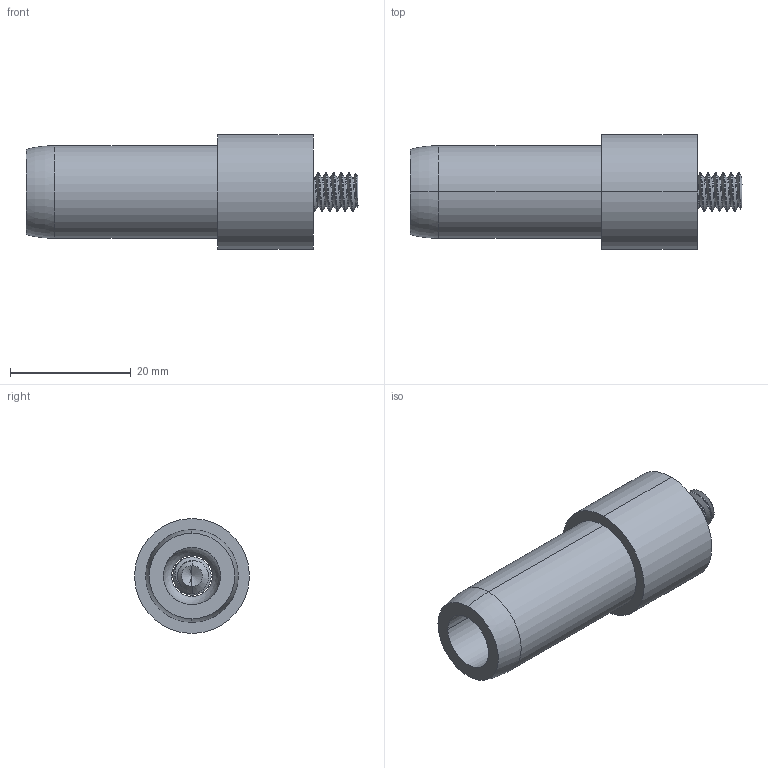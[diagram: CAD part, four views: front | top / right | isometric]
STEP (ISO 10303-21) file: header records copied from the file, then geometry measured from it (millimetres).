
FILE_DESCRIPTION (( 'STEP AP203' ), '1' );
FILE_NAME ('FDPCK-MODCON.625-END-STUD.step', '2019-09-11T18:37:30', ( 'ydmin' ), ( '' ), 'SwSTEP 2.0', 'SolidWorks 2017', '' );
FILE_SCHEMA (( 'CONFIG_CONTROL_DESIGN' ));
Length unit declared in the file: inch
Products named in the file (1): FDPCK-MODCON.625-END-STUD
Bounding box: 55.04 x 19.05 x 19.05 mm (x, y, z)
Volume: 7980.4 mm3; surface area: 4703 mm2
Topology: 2 solids, 2 shells, 69 faces, 172 edges, 105 vertices
Faces by surface type: cylinder 31, plane 16, cone 16, bspline 3, torus 2, sphere 1
Entity records: 4119 total; most frequent: CARTESIAN_POINT 2590, ORIENTED_EDGE 332, DIRECTION 275, EDGE_CURVE 166, AXIS2_PLACEMENT_3D 109, VERTEX_POINT 104, EDGE_LOOP 74, FACE_OUTER_BOUND 69
